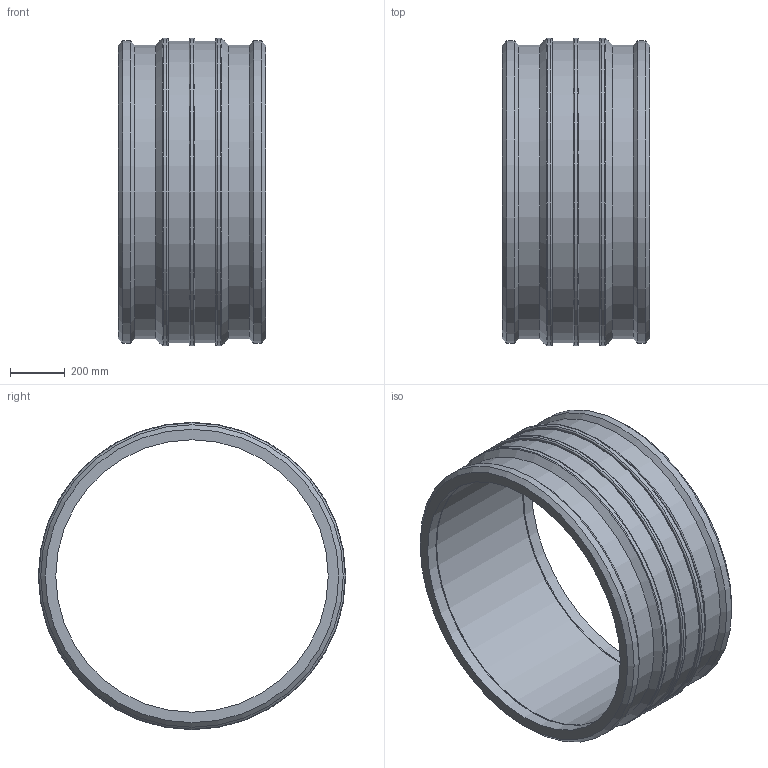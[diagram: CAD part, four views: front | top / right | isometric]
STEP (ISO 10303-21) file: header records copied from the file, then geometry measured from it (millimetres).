
FILE_DESCRIPTION(/* description */ ('PLASSON LIGHTFIT COUPLER 1000'),/* implementation_level */ '2;1');
FILE_NAME(/* name */ 'C:\Dropbox\KIMPROJECTS-Inventor 2019\99-16-3568-Processing\ElectroFusion Fittings\460103\4601031000.ipt.stp',/* time_stamp */ '2020-12-09T14:37:53+02:00',/* author */ ('KIM'),/* organization */ (''),/* preprocessor_version */ 'ST-DEVELOPER v17.2',/* originating_system */ 'Autodesk Inventor 2019',/* authorisation */ '');
FILE_SCHEMA (('AUTOMOTIVE_DESIGN { 1 0 10303 214 3 1 1 }'));
Length unit declared in the file: millimetre
Products named in the file (1): 4601031000
Bounding box: 540 x 1128 x 1128 mm (x, y, z)
Volume: 87787232.1 mm3; surface area: 4107337.7 mm2
Topology: 1 solids, 1 shells, 48 faces, 126 edges, 92 vertices
Faces by surface type: cylinder 20, plane 14, cone 8, torus 6
Full cylindrical faces by diameter (mm): 4 x2, 10 x2, 1000 x3, 1076.7 x2, 1105.44 x2, 1110 x2, 1128 x3
Entity records: 1687 total; most frequent: CARTESIAN_POINT 337, DIRECTION 318, ORIENTED_EDGE 252, AXIS2_PLACEMENT_3D 147, EDGE_CURVE 126, CIRCLE 98, VERTEX_POINT 92, EDGE_LOOP 62
